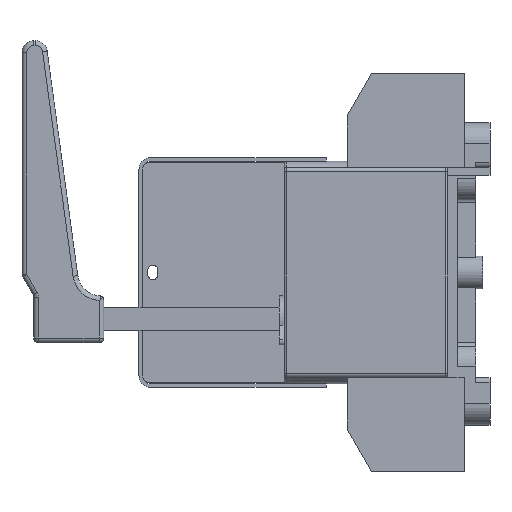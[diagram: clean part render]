
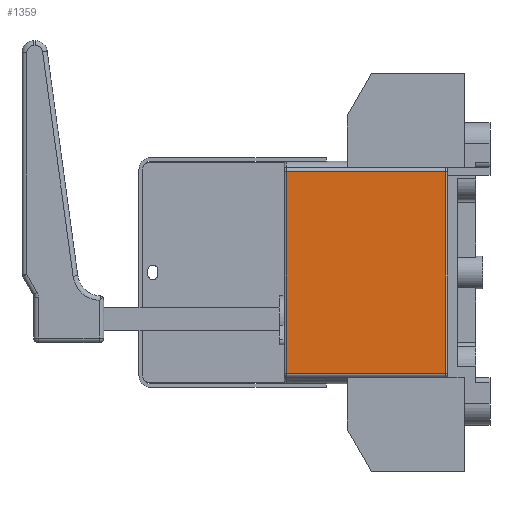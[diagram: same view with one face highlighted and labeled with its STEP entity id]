
A CAD part, left-side view. The second image highlights one B-rep face of the part: STEP entity #1359.
In plain terms, the highlighted planar face has unit normal (-1, 0, 0).
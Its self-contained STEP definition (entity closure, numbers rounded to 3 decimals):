
#77=FACE_OUTER_BOUND('',#4093,.T.);
#1359=ADVANCED_FACE('',(#77),#2354,.F.);
#2354=PLANE('',#19538);
#4093=EDGE_LOOP('',(#5620,#5621,#5622,#5623));
#5620=ORIENTED_EDGE('',*,*,#12940,.F.);
#5621=ORIENTED_EDGE('',*,*,#12941,.T.);
#5622=ORIENTED_EDGE('',*,*,#12937,.T.);
#5623=ORIENTED_EDGE('',*,*,#12942,.T.);
#11092=VERTEX_POINT('',#27507);
#11093=VERTEX_POINT('',#27508);
#11094=VERTEX_POINT('',#27513);
#11095=VERTEX_POINT('',#27514);
#12937=EDGE_CURVE('',#11092,#11093,#15634,.T.);
#12940=EDGE_CURVE('',#11094,#11095,#15635,.T.);
#12941=EDGE_CURVE('',#11094,#11092,#15636,.T.);
#12942=EDGE_CURVE('',#11093,#11095,#15637,.T.);
#15634=LINE('',#27506,#17628);
#15635=LINE('',#27512,#17629);
#15636=LINE('',#27515,#17630);
#15637=LINE('',#27516,#17631);
#17628=VECTOR('',#21587,1.);
#17629=VECTOR('',#21594,1.);
#17630=VECTOR('',#21595,1.);
#17631=VECTOR('',#21596,1.);
#19538=AXIS2_PLACEMENT_3D('',#27517,#21597,#21598);
#21587=DIRECTION('',(0.,-1.,0.));
#21594=DIRECTION('',(0.,-1.,0.));
#21595=DIRECTION('',(0.,0.,-1.));
#21596=DIRECTION('',(0.,0.,1.));
#21597=DIRECTION('',(1.,0.,0.));
#21598=DIRECTION('',(0.,0.,-1.));
#27506=CARTESIAN_POINT('',(-41.,35.,-43.));
#27507=CARTESIAN_POINT('',(-41.,69.,-43.));
#27508=CARTESIAN_POINT('',(-41.,1.,-43.));
#27512=CARTESIAN_POINT('',(-41.,35.,43.));
#27513=CARTESIAN_POINT('',(-41.,69.,43.));
#27514=CARTESIAN_POINT('',(-41.,1.,43.));
#27515=CARTESIAN_POINT('',(-41.,69.,-43.));
#27516=CARTESIAN_POINT('',(-41.,1.,-43.));
#27517=CARTESIAN_POINT('',(-41.,35.,-43.));
